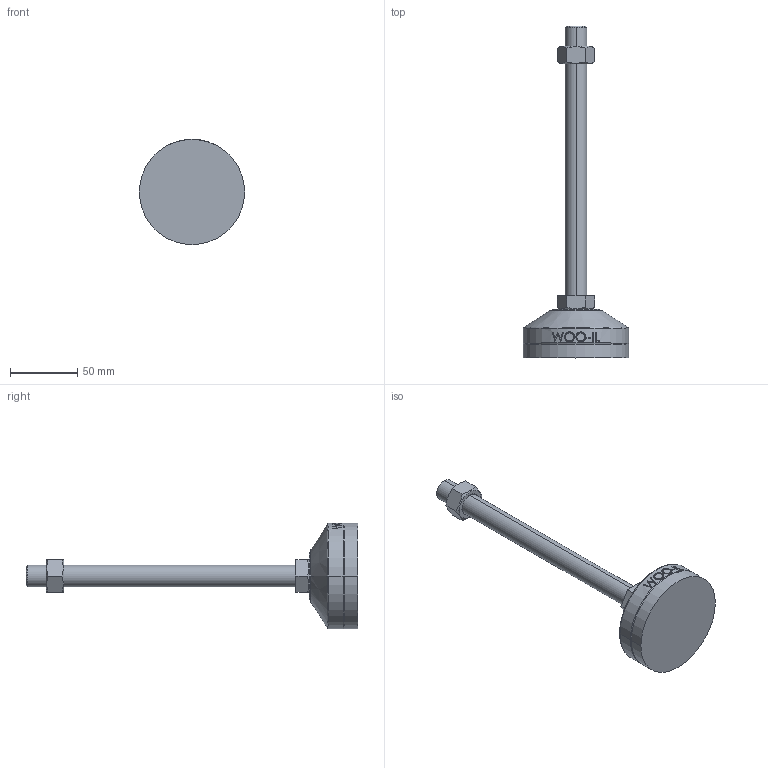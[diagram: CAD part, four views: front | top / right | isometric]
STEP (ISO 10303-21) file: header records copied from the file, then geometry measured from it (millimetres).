
FILE_DESCRIPTION (( 'STEP AP214' ), '1' );
FILE_NAME ('MFR78-M16-200.step', '2021-01-13T05:37:52', ( '' ), ( '' ), 'SwSTEP 2.0', 'SolidWorks 2019', '' );
FILE_SCHEMA (( 'AUTOMOTIVE_DESIGN' ));
Length unit declared in the file: millimetre
Products named in the file (2): MFR78-M16-200
Bounding box: 78 x 246 x 78 mm (x, y, z)
Volume: 192153 mm3; surface area: 39326.2 mm2
Topology: 4 solids, 4 shells, 103 faces, 235 edges, 150 vertices
Faces by surface type: plane 49, cylinder 18, bspline 16, cone 14, torus 6
Entity records: 4435 total; most frequent: CARTESIAN_POINT 2162, ORIENTED_EDGE 470, DIRECTION 417, EDGE_CURVE 235, AXIS2_PLACEMENT_3D 159, VERTEX_POINT 150, EDGE_LOOP 115, ADVANCED_FACE 103
